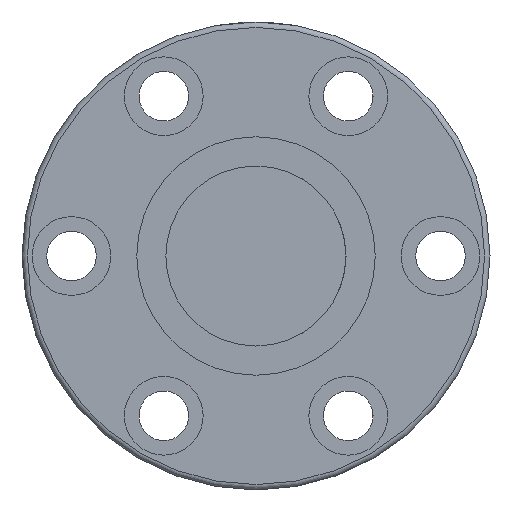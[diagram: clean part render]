
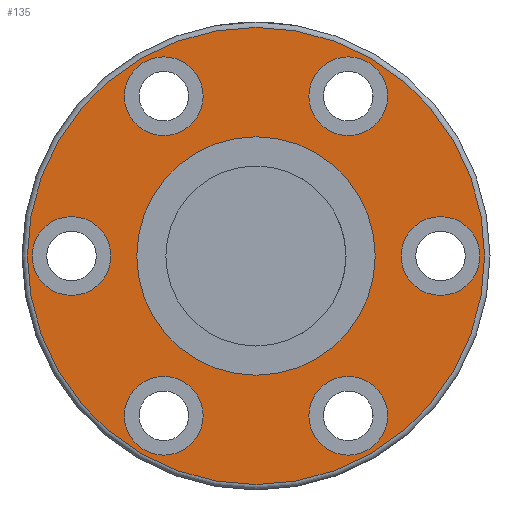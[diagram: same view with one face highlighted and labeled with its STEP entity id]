
A CAD part, front view. The second image highlights one B-rep face of the part: STEP entity #135.
In plain terms, the highlighted planar face has unit normal (0, -1, 0).
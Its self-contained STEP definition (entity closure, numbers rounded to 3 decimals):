
#111=PLANE('',#654);
#135=ADVANCED_FACE('',(#205,#206,#207,#208,#209,#210,#211,#212),#111,.F.);
#205=FACE_BOUND('',#302,.T.);
#206=FACE_BOUND('',#303,.T.);
#207=FACE_BOUND('',#304,.T.);
#208=FACE_BOUND('',#305,.T.);
#209=FACE_BOUND('',#306,.T.);
#210=FACE_BOUND('',#307,.T.);
#211=FACE_BOUND('',#308,.T.);
#212=FACE_BOUND('',#309,.T.);
#302=EDGE_LOOP('',(#400));
#303=EDGE_LOOP('',(#401));
#304=EDGE_LOOP('',(#402));
#305=EDGE_LOOP('',(#403));
#306=EDGE_LOOP('',(#404));
#307=EDGE_LOOP('',(#405));
#308=EDGE_LOOP('',(#406));
#309=EDGE_LOOP('',(#407));
#400=ORIENTED_EDGE('',*,*,#541,.T.);
#401=ORIENTED_EDGE('',*,*,#542,.T.);
#402=ORIENTED_EDGE('',*,*,#543,.T.);
#403=ORIENTED_EDGE('',*,*,#544,.T.);
#404=ORIENTED_EDGE('',*,*,#545,.T.);
#405=ORIENTED_EDGE('',*,*,#546,.T.);
#406=ORIENTED_EDGE('',*,*,#547,.T.);
#407=ORIENTED_EDGE('',*,*,#548,.F.);
#492=VERTEX_POINT('',#932);
#493=VERTEX_POINT('',#934);
#494=VERTEX_POINT('',#936);
#495=VERTEX_POINT('',#938);
#496=VERTEX_POINT('',#940);
#497=VERTEX_POINT('',#942);
#498=VERTEX_POINT('',#944);
#499=VERTEX_POINT('',#946);
#541=EDGE_CURVE('',#492,#492,#590,.T.);
#542=EDGE_CURVE('',#493,#493,#591,.T.);
#543=EDGE_CURVE('',#494,#494,#592,.T.);
#544=EDGE_CURVE('',#495,#495,#593,.T.);
#545=EDGE_CURVE('',#496,#496,#594,.T.);
#546=EDGE_CURVE('',#497,#497,#595,.T.);
#547=EDGE_CURVE('',#498,#498,#596,.T.);
#548=EDGE_CURVE('',#499,#499,#597,.T.);
#590=CIRCLE('',#646,8.75);
#591=CIRCLE('',#647,8.75);
#592=CIRCLE('',#648,8.75);
#593=CIRCLE('',#649,8.75);
#594=CIRCLE('',#650,8.75);
#595=CIRCLE('',#651,8.75);
#596=CIRCLE('',#652,50.8);
#597=CIRCLE('',#653,26.5);
#646=AXIS2_PLACEMENT_3D('',#931,#753,#754);
#647=AXIS2_PLACEMENT_3D('',#933,#755,#756);
#648=AXIS2_PLACEMENT_3D('',#935,#757,#758);
#649=AXIS2_PLACEMENT_3D('',#937,#759,#760);
#650=AXIS2_PLACEMENT_3D('',#939,#761,#762);
#651=AXIS2_PLACEMENT_3D('',#941,#763,#764);
#652=AXIS2_PLACEMENT_3D('',#943,#765,#766);
#653=AXIS2_PLACEMENT_3D('',#945,#767,#768);
#654=AXIS2_PLACEMENT_3D('',#947,#769,#770);
#753=DIRECTION('',(0.,1.,0.));
#754=DIRECTION('',(0.,0.,1.));
#755=DIRECTION('',(0.,1.,0.));
#756=DIRECTION('',(0.,0.,1.));
#757=DIRECTION('',(0.,1.,0.));
#758=DIRECTION('',(0.,0.,1.));
#759=DIRECTION('',(0.,1.,0.));
#760=DIRECTION('',(0.,0.,1.));
#761=DIRECTION('',(0.,1.,0.));
#762=DIRECTION('',(0.,0.,1.));
#763=DIRECTION('',(0.,1.,0.));
#764=DIRECTION('',(0.,0.,1.));
#765=DIRECTION('',(0.,-1.,0.));
#766=DIRECTION('',(0.,0.,1.));
#767=DIRECTION('',(0.,-1.,0.));
#768=DIRECTION('',(1.,0.,0.));
#769=DIRECTION('',(0.,1.,0.));
#770=DIRECTION('',(0.,0.,1.));
#931=CARTESIAN_POINT('',(41.039,-43.961,0.));
#932=CARTESIAN_POINT('',(41.039,-43.961,8.75));
#933=CARTESIAN_POINT('',(-40.961,-43.961,0.));
#934=CARTESIAN_POINT('',(-40.961,-43.961,8.75));
#935=CARTESIAN_POINT('',(20.539,-43.961,-35.507));
#936=CARTESIAN_POINT('',(20.539,-43.961,-26.757));
#937=CARTESIAN_POINT('',(-20.461,-43.961,-35.507));
#938=CARTESIAN_POINT('',(-20.461,-43.961,-26.757));
#939=CARTESIAN_POINT('',(20.539,-43.961,35.507));
#940=CARTESIAN_POINT('',(20.539,-43.961,44.257));
#941=CARTESIAN_POINT('',(-20.461,-43.961,35.507));
#942=CARTESIAN_POINT('',(-20.461,-43.961,44.257));
#943=CARTESIAN_POINT('',(0.039,-43.961,0.));
#944=CARTESIAN_POINT('',(0.039,-43.961,50.8));
#945=CARTESIAN_POINT('',(0.039,-43.961,0.));
#946=CARTESIAN_POINT('',(26.539,-43.961,0.));
#947=CARTESIAN_POINT('',(0.039,-43.961,0.));
